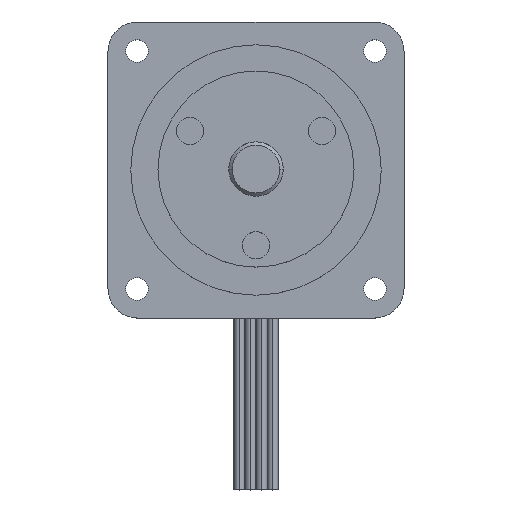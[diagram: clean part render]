
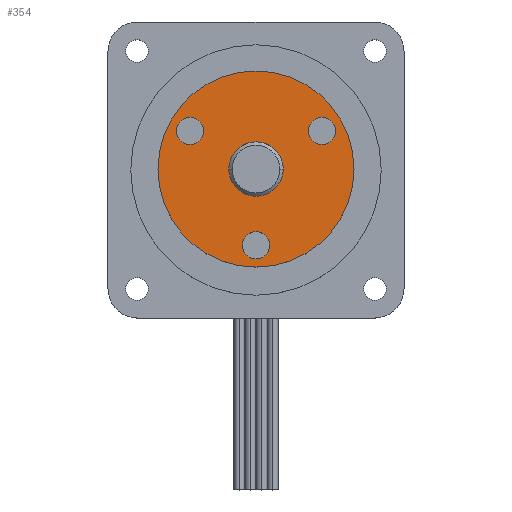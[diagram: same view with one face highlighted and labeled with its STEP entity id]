
A CAD part, top view. The second image highlights one B-rep face of the part: STEP entity #354.
In plain terms, the highlighted planar face has unit normal (0, 0, 1).
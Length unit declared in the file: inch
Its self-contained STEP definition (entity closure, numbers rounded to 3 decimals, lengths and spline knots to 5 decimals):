
#53 = CARTESIAN_POINT ( 'NONE',  ( -0.15625, -0.875, 0. ) ) ;
#55 = CARTESIAN_POINT ( 'NONE',  ( 0.3125, 0., 0. ) ) ;
#173 = AXIS2_PLACEMENT_3D ( 'NONE', #1819, #1974, #1745 ) ;
#183 = DIRECTION ( 'NONE',  ( 1., 0., 0. ) ) ;
#204 = VERTEX_POINT ( 'NONE', #687 ) ;
#219 = DIRECTION ( 'NONE',  ( 1., 0., 0. ) ) ;
#233 = EDGE_CURVE ( 'NONE', #1377, #2024, #2749, .T. ) ;
#234 = ORIENTED_EDGE ( 'NONE', *, *, #747, .T. ) ;
#251 = EDGE_LOOP ( 'NONE', ( #1282, #1864 ) ) ;
#271 = FACE_BOUND ( 'NONE', #251, .T. ) ;
#320 = DIRECTION ( 'NONE',  ( 1., 0., 0. ) ) ;
#354 = ADVANCED_FACE ( 'NONE', ( #1986, #2959, #1743, #271, #2428 ), #526, .F. ) ;
#369 = ORIENTED_EDGE ( 'NONE', *, *, #233, .F. ) ;
#390 = VERTEX_POINT ( 'NONE', #2155 ) ;
#391 = DIRECTION ( 'NONE',  ( 1., 0., 0. ) ) ;
#452 = EDGE_LOOP ( 'NONE', ( #1902, #369 ) ) ;
#499 = VERTEX_POINT ( 'NONE', #2271 ) ;
#516 = ORIENTED_EDGE ( 'NONE', *, *, #2825, .F. ) ;
#526 = PLANE ( 'NONE',  #943 ) ;
#530 = CIRCLE ( 'NONE', #744, 0.3125 ) ;
#590 = AXIS2_PLACEMENT_3D ( 'NONE', #2930, #2916, #219 ) ;
#594 = EDGE_CURVE ( 'NONE', #2024, #1377, #2499, .T. ) ;
#667 = CARTESIAN_POINT ( 'NONE',  ( 0.75777, 0.4375, 0. ) ) ;
#687 = CARTESIAN_POINT ( 'NONE',  ( 0.91402, 0.4375, 0. ) ) ;
#695 = CIRCLE ( 'NONE', #2503, 1.125 ) ;
#734 = EDGE_LOOP ( 'NONE', ( #1648, #234 ) ) ;
#744 = AXIS2_PLACEMENT_3D ( 'NONE', #1382, #2663, #1420 ) ;
#747 = EDGE_CURVE ( 'NONE', #499, #2176, #1201, .T. ) ;
#780 = DIRECTION ( 'NONE',  ( 0., 0., -1. ) ) ;
#832 = DIRECTION ( 'NONE',  ( 0., 0., 1. ) ) ;
#845 = ORIENTED_EDGE ( 'NONE', *, *, #2588, .F. ) ;
#846 = CARTESIAN_POINT ( 'NONE',  ( 0., 0., 0. ) ) ;
#903 = CIRCLE ( 'NONE', #173, 0.15625 ) ;
#943 = AXIS2_PLACEMENT_3D ( 'NONE', #1510, #780, #2498 ) ;
#962 = EDGE_CURVE ( 'NONE', #2173, #2504, #530, .T. ) ;
#1037 = CARTESIAN_POINT ( 'NONE',  ( 1.125, 0., 0. ) ) ;
#1094 = DIRECTION ( 'NONE',  ( 1., 0., 0. ) ) ;
#1151 = AXIS2_PLACEMENT_3D ( 'NONE', #1248, #2258, #2447 ) ;
#1194 = CARTESIAN_POINT ( 'NONE',  ( -0.60152, 0.4375, 0. ) ) ;
#1201 = CIRCLE ( 'NONE', #1151, 1.125 ) ;
#1248 = CARTESIAN_POINT ( 'NONE',  ( 0., 0., 0. ) ) ;
#1260 = AXIS2_PLACEMENT_3D ( 'NONE', #667, #3088, #183 ) ;
#1282 = ORIENTED_EDGE ( 'NONE', *, *, #962, .F. ) ;
#1287 = EDGE_CURVE ( 'NONE', #2504, #2173, #2055, .T. ) ;
#1309 = CIRCLE ( 'NONE', #590, 0.15625 ) ;
#1344 = CARTESIAN_POINT ( 'NONE',  ( -0.75777, 0.4375, 0. ) ) ;
#1373 = CARTESIAN_POINT ( 'NONE',  ( 0., 0., 0. ) ) ;
#1377 = VERTEX_POINT ( 'NONE', #1577 ) ;
#1382 = CARTESIAN_POINT ( 'NONE',  ( 0., 0., 0. ) ) ;
#1420 = DIRECTION ( 'NONE',  ( 1., 0., 0. ) ) ;
#1466 = CIRCLE ( 'NONE', #2342, 0.15625 ) ;
#1510 = CARTESIAN_POINT ( 'NONE',  ( 0., 0., 0. ) ) ;
#1513 = DIRECTION ( 'NONE',  ( 1., 0., 0. ) ) ;
#1517 = CARTESIAN_POINT ( 'NONE',  ( 0.15625, -0.875, 0. ) ) ;
#1577 = CARTESIAN_POINT ( 'NONE',  ( -0.91402, 0.4375, 0. ) ) ;
#1594 = VERTEX_POINT ( 'NONE', #1517 ) ;
#1648 = ORIENTED_EDGE ( 'NONE', *, *, #2872, .T. ) ;
#1743 = FACE_BOUND ( 'NONE', #2096, .T. ) ;
#1745 = DIRECTION ( 'NONE',  ( 1., 0., 0. ) ) ;
#1819 = CARTESIAN_POINT ( 'NONE',  ( 0., -0.875, 0. ) ) ;
#1846 = AXIS2_PLACEMENT_3D ( 'NONE', #1373, #2831, #391 ) ;
#1864 = ORIENTED_EDGE ( 'NONE', *, *, #1287, .F. ) ;
#1902 = ORIENTED_EDGE ( 'NONE', *, *, #594, .F. ) ;
#1932 = AXIS2_PLACEMENT_3D ( 'NONE', #2537, #2254, #320 ) ;
#1974 = DIRECTION ( 'NONE',  ( 0., 0., 1. ) ) ;
#1986 = FACE_BOUND ( 'NONE', #452, .T. ) ;
#2024 = VERTEX_POINT ( 'NONE', #1194 ) ;
#2055 = CIRCLE ( 'NONE', #1846, 0.3125 ) ;
#2096 = EDGE_LOOP ( 'NONE', ( #845, #516 ) ) ;
#2129 = DIRECTION ( 'NONE',  ( 0., 0., 1. ) ) ;
#2155 = CARTESIAN_POINT ( 'NONE',  ( 0.60152, 0.4375, 0. ) ) ;
#2173 = VERTEX_POINT ( 'NONE', #55 ) ;
#2176 = VERTEX_POINT ( 'NONE', #1037 ) ;
#2254 = DIRECTION ( 'NONE',  ( 0., 0., 1. ) ) ;
#2258 = DIRECTION ( 'NONE',  ( 0., 0., 1. ) ) ;
#2271 = CARTESIAN_POINT ( 'NONE',  ( -1.125, 0., 0. ) ) ;
#2305 = CARTESIAN_POINT ( 'NONE',  ( 0., -0.875, 0. ) ) ;
#2342 = AXIS2_PLACEMENT_3D ( 'NONE', #2305, #832, #1513 ) ;
#2382 = AXIS2_PLACEMENT_3D ( 'NONE', #1344, #2129, #2833 ) ;
#2428 = FACE_OUTER_BOUND ( 'NONE', #734, .T. ) ;
#2442 = ORIENTED_EDGE ( 'NONE', *, *, #3159, .F. ) ;
#2447 = DIRECTION ( 'NONE',  ( 1., 0., 0. ) ) ;
#2498 = DIRECTION ( 'NONE',  ( -1., 0., 0. ) ) ;
#2499 = CIRCLE ( 'NONE', #1932, 0.15625 ) ;
#2503 = AXIS2_PLACEMENT_3D ( 'NONE', #846, #2783, #1094 ) ;
#2504 = VERTEX_POINT ( 'NONE', #3181 ) ;
#2537 = CARTESIAN_POINT ( 'NONE',  ( -0.75777, 0.4375, 0. ) ) ;
#2588 = EDGE_CURVE ( 'NONE', #1594, #2878, #903, .T. ) ;
#2663 = DIRECTION ( 'NONE',  ( 0., 0., 1. ) ) ;
#2664 = ORIENTED_EDGE ( 'NONE', *, *, #2992, .F. ) ;
#2749 = CIRCLE ( 'NONE', #2382, 0.15625 ) ;
#2783 = DIRECTION ( 'NONE',  ( 0., 0., 1. ) ) ;
#2825 = EDGE_CURVE ( 'NONE', #2878, #1594, #1466, .T. ) ;
#2831 = DIRECTION ( 'NONE',  ( 0., 0., 1. ) ) ;
#2833 = DIRECTION ( 'NONE',  ( 1., 0., 0. ) ) ;
#2872 = EDGE_CURVE ( 'NONE', #2176, #499, #695, .T. ) ;
#2878 = VERTEX_POINT ( 'NONE', #53 ) ;
#2916 = DIRECTION ( 'NONE',  ( 0., 0., 1. ) ) ;
#2930 = CARTESIAN_POINT ( 'NONE',  ( 0.75777, 0.4375, 0. ) ) ;
#2959 = FACE_BOUND ( 'NONE', #3189, .T. ) ;
#2992 = EDGE_CURVE ( 'NONE', #204, #390, #3013, .T. ) ;
#3013 = CIRCLE ( 'NONE', #1260, 0.15625 ) ;
#3088 = DIRECTION ( 'NONE',  ( 0., 0., 1. ) ) ;
#3159 = EDGE_CURVE ( 'NONE', #390, #204, #1309, .T. ) ;
#3181 = CARTESIAN_POINT ( 'NONE',  ( -0.3125, 0., 0. ) ) ;
#3189 = EDGE_LOOP ( 'NONE', ( #2664, #2442 ) ) ;
